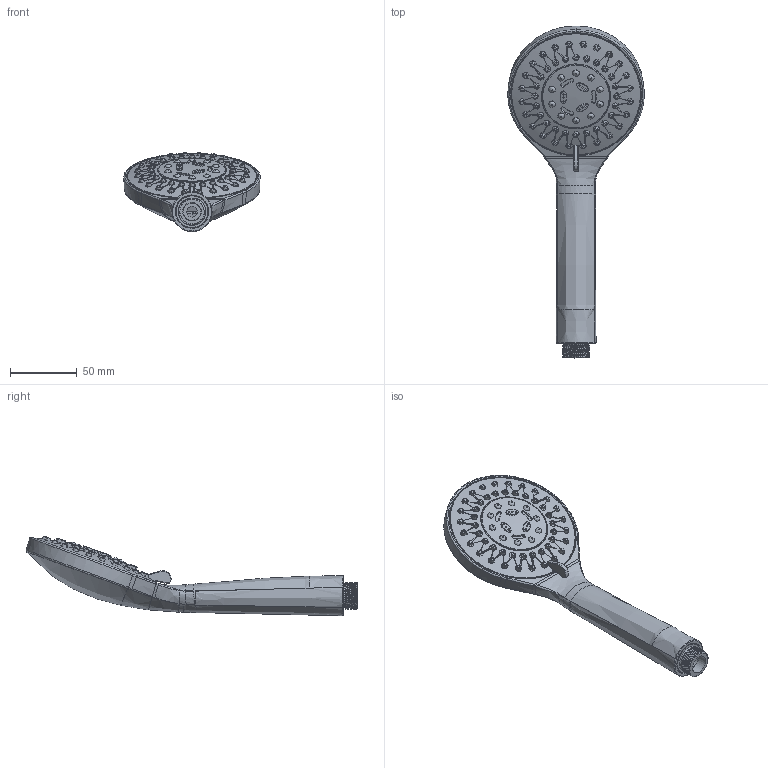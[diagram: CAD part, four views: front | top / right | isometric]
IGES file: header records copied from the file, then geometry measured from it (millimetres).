
Global section: file name: 5637ecbf-d4b8-4da0-8df6-205883e8a6ee; native system: unknown; preprocessor: unknown; author: unknown; organization: unknown; date: 20200702.070140; units: millimetre
Bounding box: 101.86 x 247.93 x 59.36 mm (x, y, z)
Volume: 131688.2 mm3; surface area: 104966.7 mm2
Topology: 5 solids, 5 shells, 1785 faces, 5013 edges, 3274 vertices
Faces by surface type: bspline 1785
